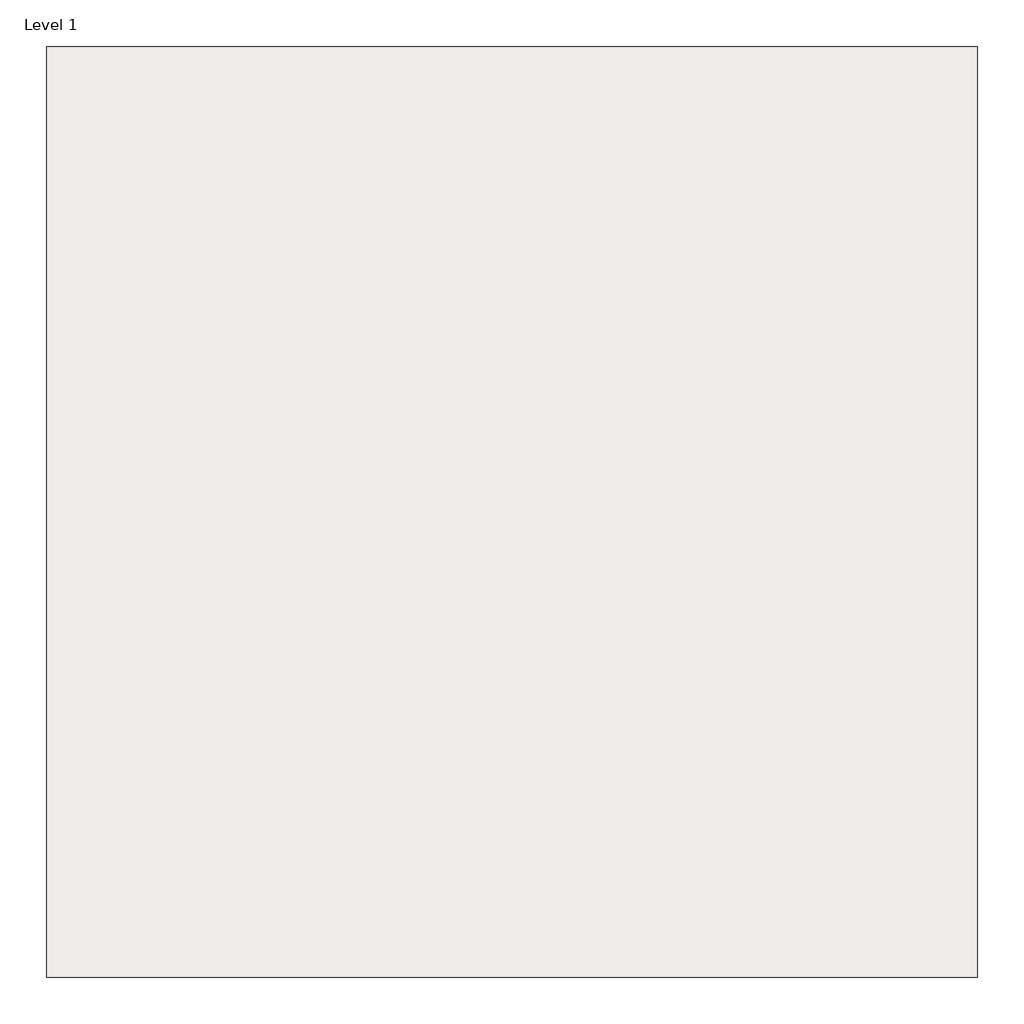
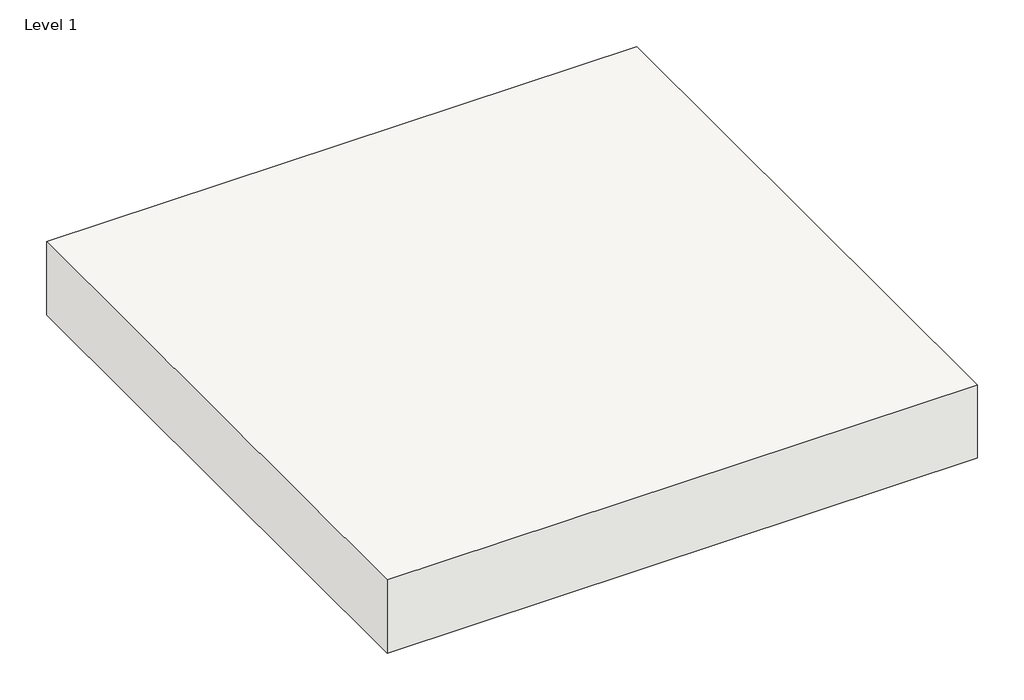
# One storey: 1 roof.
"""IFC4 building model written with IfcOpenShell, lengths in millimetres."""

import ifcopenshell
import ifcopenshell.guid

model = None  # the IFC model being written
_history = None  # IfcOwnerHistory: only IFC2X3 demands one
_inside = {}  # id of a spatial element -> (the spatial element, [elements in it])
_under = {}  # id of a project, library or spatial element -> (it, [spatial elements below it])
_declared = {}  # id of a project -> (the project, [libraries it declares])
_typed = {}  # id of a type object -> (the type object, [elements of that type])
_made_of = {}  # id of a material, layer set ... -> (it, [elements and type objects made of it])


def new_model(schema):
    """Start an empty IFC model of exactly this schema.

    Asked for "IFC4X3", IfcOpenShell would pick the latest addendum, in which some entities
    have other attributes; the version numbers below select the first issue.
    IFC2X3 requires an IfcOwnerHistory on every rooted entity: one is made here for all.
    """
    global model, _history
    if schema == "IFC4X3":
        model = ifcopenshell.file(schema_version=(4, 3, 0, 0))
    else:
        model = ifcopenshell.file(schema=schema)
    _inside.clear()
    _under.clear()
    _declared.clear()
    _typed.clear()
    _made_of.clear()
    _history = None
    if model.schema == "IFC2X3":
        org = make("IfcOrganization", Name="unknown")
        user = make(
            "IfcPersonAndOrganization",
            ThePerson=make("IfcPerson", FamilyName="unknown"),
            TheOrganization=org,
        )
        app = make(
            "IfcApplication",
            ApplicationDeveloper=org,
            Version="unknown",
            ApplicationFullName="unknown",
            ApplicationIdentifier="unknown",
        )
        _history = make(
            "IfcOwnerHistory",
            OwningUser=user,
            OwningApplication=app,
            ChangeAction="ADDED",
            CreationDate=0,
        )
    return model


def make(cls, **values):
    """One entity of the class cls with the attributes given. An attribute that is None is left unset."""
    return model.create_entity(
        cls, **{name: value for name, value in values.items() if value is not None}
    )


def rooted(cls, **values):
    """An entity with a GlobalId (a new one), such as an element, a storey or a relation."""
    return make(cls, GlobalId=ifcopenshell.guid.new(), OwnerHistory=_history, **values)


def si_unit(unit_type, name, prefix=None):
    """IfcSIUnit, for example si_unit("LENGTHUNIT", "METRE", prefix="MILLI")."""
    return make("IfcSIUnit", UnitType=unit_type, Prefix=prefix, Name=name)


def assignment(units):
    """IfcUnitAssignment: the units of a project."""
    return None if units is None else make("IfcUnitAssignment", Units=units)


def point(xyz):
    """IfcCartesianPoint."""
    return None if xyz is None else make("IfcCartesianPoint", Coordinates=xyz)


def direction(xyz):
    """IfcDirection."""
    return None if xyz is None else make("IfcDirection", DirectionRatios=xyz)


def frame(location, z_axis=None, x_axis=None):
    """IfcAxis2Placement3D, a coordinate frame: its origin and axes. An axis left out is left unset."""
    return make(
        "IfcAxis2Placement3D",
        Location=point(location),
        Axis=direction(z_axis),
        RefDirection=direction(x_axis),
    )


def origin():
    """The frame at (0, 0, 0) with its axes left unset."""
    return frame((0.0, 0.0, 0.0))


def origin_with_axes():
    """The frame at (0, 0, 0) with the z axis (0, 0, 1) and the x axis (1, 0, 0) written out."""
    return frame((0.0, 0.0, 0.0), z_axis=(0.0, 0.0, 1.0), x_axis=(1.0, 0.0, 0.0))


def place(relative_to, where):
    """IfcLocalPlacement: puts the frame where relative to a parent placement (None: the world)."""
    return make(
        "IfcLocalPlacement", PlacementRelTo=relative_to, RelativePlacement=where
    )


def context(
    kind, dimensions, precision=None, world=None, true_north=None, identifier=None
):
    """IfcGeometricRepresentationContext, for example the 3D "Model" context."""
    return make(
        "IfcGeometricRepresentationContext",
        ContextIdentifier=identifier,
        ContextType=kind,
        CoordinateSpaceDimension=dimensions,
        Precision=precision,
        WorldCoordinateSystem=world,
        TrueNorth=true_north,
    )


def project(units=None, contexts=None):
    """IfcProject with its units and contexts."""
    return rooted(
        "IfcProject",
        Name="project",
        RepresentationContexts=contexts,
        UnitsInContext=assignment(units),
    )


def spatial(cls, under=None, at=None, **own):
    """A site, building, storey or space (cls), placed at a placement, below another one or the project."""
    s = rooted(cls, ObjectPlacement=at, **own)
    if under is not None:
        _under.setdefault(under.id(), (under, []))[1].append(s)
    return s


def polyline(points):
    """IfcPolyline through the points."""
    return make("IfcPolyline", Points=[point(p) for p in points])


def outline(outer, holes=None, kind="AREA"):
    """IfcArbitraryClosedProfileDef: a profile drawn as a closed curve; with holes, ...WithVoids."""
    if holes is None:
        return make("IfcArbitraryClosedProfileDef", ProfileType=kind, OuterCurve=outer)
    return make(
        "IfcArbitraryProfileDefWithVoids",
        ProfileType=kind,
        OuterCurve=outer,
        InnerCurves=holes,
    )


def extrude(swept, where, along, depth):
    """IfcExtrudedAreaSolid: the profile swept, set in the frame where, extruded along a direction by depth."""
    return make(
        "IfcExtrudedAreaSolid",
        SweptArea=swept,
        Position=where,
        ExtrudedDirection=direction(along),
        Depth=depth,
    )


def shape(context_of_items, identifier, shape_type, items):
    """IfcShapeRepresentation: the items that make up one representation, for example the "Body"."""
    return make(
        "IfcShapeRepresentation",
        ContextOfItems=context_of_items,
        RepresentationIdentifier=identifier,
        RepresentationType=shape_type,
        Items=items,
    )


def made_of(thing, what):
    """Note that an element or type object is made of a material, layer set ...; save() writes the relation."""
    if what is not None:
        _made_of.setdefault(what.id(), (what, []))[1].append(thing)
    return thing


def element(
    cls,
    number,
    at=None,
    inside=None,
    cuts=None,
    type_object=None,
    material=None,
    context=None,
    identifier="Body",
    shape_type=None,
    held_by="IfcProductDefinitionShape",
    body=None,
    shapes=None,
    **own,
):
    """One element of the class cls, such as IfcWall. Its Tag is "e" and its number.

    at: its placement. inside: the storey or other place that contains it. cuts: it is an
    opening in that element (IfcRelVoidsElement). A single representation is given by context,
    identifier, shape_type and body (its items); several are given by shapes. held_by: the class
    of the entity that holds the representations. save() writes the other relations.
    """
    e = rooted(cls, Tag="e%d" % number, ObjectPlacement=at, **own)
    if body is not None:
        shapes = [shape(context, identifier, shape_type, body)]
    if shapes is not None:
        e.Representation = make(held_by, Representations=shapes)
    if inside is not None:
        _inside.setdefault(inside.id(), (inside, []))[1].append(e)
    if cuts is not None:
        rooted(
            "IfcRelVoidsElement", RelatingBuildingElement=cuts, RelatedOpeningElement=e
        )
    if type_object is not None:
        _typed.setdefault(type_object.id(), (type_object, []))[1].append(e)
    return made_of(e, material)


def aggregate(whole, parts):
    """IfcRelAggregates: a whole, such as a stair, and the parts it consists of."""
    return rooted("IfcRelAggregates", RelatingObject=whole, RelatedObjects=parts)


def save(model, path):
    """Write the relations noted so far, then the file.

    IfcRelAggregates (storeys below a building ...), IfcRelContainedInSpatialStructure (elements
    in a storey), IfcRelDefinesByType, IfcRelAssociatesMaterial and IfcRelDeclares: one each for
    every whole, place, type object, material and project.
    """
    for whole, parts in _under.values():
        aggregate(whole, parts)
    for where, things in _inside.values():
        rooted(
            "IfcRelContainedInSpatialStructure",
            RelatedElements=things,
            RelatingStructure=where,
        )
    for kind, things in _typed.values():
        rooted("IfcRelDefinesByType", RelatedObjects=things, RelatingType=kind)
    for what, things in _made_of.values():
        rooted("IfcRelAssociatesMaterial", RelatedObjects=things, RelatingMaterial=what)
    for by, libraries in _declared.values():
        rooted("IfcRelDeclares", RelatingContext=by, RelatedDefinitions=libraries)
    model.write(path)


model = new_model("IFC4")

# Units and contexts
model_context = context("Model", 3, world=origin())
ifc_project = project(units=[si_unit("LENGTHUNIT", "METRE", prefix="MILLI")], contexts=[model_context])

# Site, building, storey
site = spatial("IfcSite", under=ifc_project)
building = spatial("IfcBuilding", under=site)
storey = spatial("IfcBuildingStorey", under=building, Name="Level 1", Elevation=0.0)

# Roof
placement = place(None, origin())
element("IfcRoof", 1, ObjectType="Garland_StressPly_FlexPlus", at=placement, inside=storey, context=model_context, shape_type="SweptSolid", body=[
    extrude(outline(polyline([(1764.0997831, 3460.4121475), (2764.0997831, 3460.4121475), (2764.0997831, 2460.4121475), (1764.0997831, 2460.4121475), (1764.0997831, 3460.4121475)])), origin_with_axes(), (0.0, 0.0, 1.0), 131.2),
])

save(model, "model.ifc")
